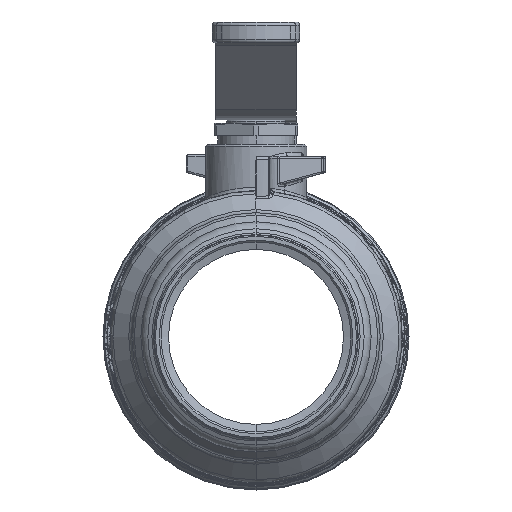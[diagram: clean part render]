
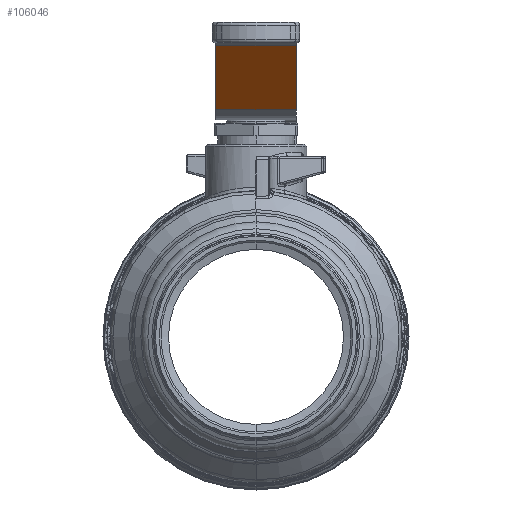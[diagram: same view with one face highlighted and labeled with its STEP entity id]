
A CAD part, left-side view. The second image highlights one B-rep face of the part: STEP entity #106046.
In plain terms, the highlighted planar face has unit normal (-0.707, 0, -0.707).
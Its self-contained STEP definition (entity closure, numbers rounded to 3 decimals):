
#104302 = PLANE('',#104303);
#104303 = AXIS2_PLACEMENT_3D('',#104304,#104305,#104306);
#104304 = CARTESIAN_POINT('',(0.,-34.173,78.276));
#104305 = DIRECTION('',(0.,-1.,0.));
#104306 = DIRECTION('',(1.,0.,0.));
#104501 = VERTEX_POINT('',#104502);
#104502 = CARTESIAN_POINT('',(-22.586,-34.173,
    77.205));
#104517 = CYLINDRICAL_SURFACE('',#104518,10.);
#104518 = AXIS2_PLACEMENT_3D('',#104519,#104520,#104521);
#104519 = CARTESIAN_POINT('',(-15.515,-34.173,
    84.276));
#104520 = DIRECTION('',(0.,-1.,0.));
#104521 = DIRECTION('',(1.,0.,0.));
#104529 = EDGE_CURVE('',#104530,#104501,#104532,.T.);
#104530 = VERTEX_POINT('',#104531);
#104531 = CARTESIAN_POINT('',(-40.899,-34.173,
    95.518));
#104532 = SURFACE_CURVE('',#104533,(#104537,#104544),.PCURVE_S1.);
#104533 = LINE('',#104534,#104535);
#104534 = CARTESIAN_POINT('',(-40.899,-34.173,
    95.518));
#104535 = VECTOR('',#104536,1.);
#104536 = DIRECTION('',(0.707,0.,-0.707));
#104537 = PCURVE('',#104302,#104538);
#104538 = DEFINITIONAL_REPRESENTATION('',(#104539),#104543);
#104539 = LINE('',#104540,#104541);
#104540 = CARTESIAN_POINT('',(-40.899,17.243));
#104541 = VECTOR('',#104542,1.);
#104542 = DIRECTION('',(0.707,-0.707));
#104543 = ( GEOMETRIC_REPRESENTATION_CONTEXT(2) 
PARAMETRIC_REPRESENTATION_CONTEXT() REPRESENTATION_CONTEXT('2D SPACE',''
  ) );
#104544 = PCURVE('',#104545,#104550);
#104545 = PLANE('',#104546);
#104546 = AXIS2_PLACEMENT_3D('',#104547,#104548,#104549);
#104547 = CARTESIAN_POINT('',(-40.899,-34.173,
    95.518));
#104548 = DIRECTION('',(-0.707,0.,
    -0.707));
#104549 = DIRECTION('',(0.707,0.,
    -0.707));
#104550 = DEFINITIONAL_REPRESENTATION('',(#104551),#104555);
#104551 = LINE('',#104552,#104553);
#104552 = CARTESIAN_POINT('',(0.,0.));
#104553 = VECTOR('',#104554,1.);
#104554 = DIRECTION('',(1.,0.));
#104555 = ( GEOMETRIC_REPRESENTATION_CONTEXT(2) 
PARAMETRIC_REPRESENTATION_CONTEXT() REPRESENTATION_CONTEXT('2D SPACE',''
  ) );
#104578 = CYLINDRICAL_SURFACE('',#104579,6.);
#104579 = AXIS2_PLACEMENT_3D('',#104580,#104581,#104582);
#104580 = CARTESIAN_POINT('',(-45.142,-34.173,
    91.276));
#104581 = DIRECTION('',(0.,-1.,0.));
#104582 = DIRECTION('',(1.,0.,0.));
#104743 = PLANE('',#104744);
#104744 = AXIS2_PLACEMENT_3D('',#104745,#104746,#104747);
#104745 = CARTESIAN_POINT('',(0.,-57.173,78.276));
#104746 = DIRECTION('',(0.,-1.,0.));
#104747 = DIRECTION('',(1.,0.,0.));
#105150 = VERTEX_POINT('',#105151);
#105151 = CARTESIAN_POINT('',(-40.899,-57.173,
    95.518));
#105177 = EDGE_CURVE('',#105150,#105178,#105180,.T.);
#105178 = VERTEX_POINT('',#105179);
#105179 = CARTESIAN_POINT('',(-22.586,-57.173,
    77.205));
#105180 = SURFACE_CURVE('',#105181,(#105185,#105192),.PCURVE_S1.);
#105181 = LINE('',#105182,#105183);
#105182 = CARTESIAN_POINT('',(-40.899,-57.173,
    95.518));
#105183 = VECTOR('',#105184,1.);
#105184 = DIRECTION('',(0.707,0.,-0.707));
#105185 = PCURVE('',#104743,#105186);
#105186 = DEFINITIONAL_REPRESENTATION('',(#105187),#105191);
#105187 = LINE('',#105188,#105189);
#105188 = CARTESIAN_POINT('',(-40.899,17.243));
#105189 = VECTOR('',#105190,1.);
#105190 = DIRECTION('',(0.707,-0.707));
#105191 = ( GEOMETRIC_REPRESENTATION_CONTEXT(2) 
PARAMETRIC_REPRESENTATION_CONTEXT() REPRESENTATION_CONTEXT('2D SPACE',''
  ) );
#105192 = PCURVE('',#104545,#105193);
#105193 = DEFINITIONAL_REPRESENTATION('',(#105194),#105198);
#105194 = LINE('',#105195,#105196);
#105195 = CARTESIAN_POINT('',(0.,23.));
#105196 = VECTOR('',#105197,1.);
#105197 = DIRECTION('',(1.,0.));
#105198 = ( GEOMETRIC_REPRESENTATION_CONTEXT(2) 
PARAMETRIC_REPRESENTATION_CONTEXT() REPRESENTATION_CONTEXT('2D SPACE',''
  ) );
#106025 = EDGE_CURVE('',#104501,#105178,#106026,.T.);
#106026 = SURFACE_CURVE('',#106027,(#106031,#106038),.PCURVE_S1.);
#106027 = LINE('',#106028,#106029);
#106028 = CARTESIAN_POINT('',(-22.586,-34.173,
    77.205));
#106029 = VECTOR('',#106030,1.);
#106030 = DIRECTION('',(0.,-1.,0.));
#106031 = PCURVE('',#104517,#106032);
#106032 = DEFINITIONAL_REPRESENTATION('',(#106033),#106037);
#106033 = LINE('',#106034,#106035);
#106034 = CARTESIAN_POINT('',(3.927,0.));
#106035 = VECTOR('',#106036,1.);
#106036 = DIRECTION('',(0.,1.));
#106037 = ( GEOMETRIC_REPRESENTATION_CONTEXT(2) 
PARAMETRIC_REPRESENTATION_CONTEXT() REPRESENTATION_CONTEXT('2D SPACE',''
  ) );
#106038 = PCURVE('',#104545,#106039);
#106039 = DEFINITIONAL_REPRESENTATION('',(#106040),#106044);
#106040 = LINE('',#106041,#106042);
#106041 = CARTESIAN_POINT('',(25.899,0.));
#106042 = VECTOR('',#106043,1.);
#106043 = DIRECTION('',(0.,1.));
#106044 = ( GEOMETRIC_REPRESENTATION_CONTEXT(2) 
PARAMETRIC_REPRESENTATION_CONTEXT() REPRESENTATION_CONTEXT('2D SPACE',''
  ) );
#106046 = ADVANCED_FACE('',(#106047),#104545,.T.);
#106047 = FACE_BOUND('',#106048,.T.);
#106048 = EDGE_LOOP('',(#106049,#106050,#106051,#106072));
#106049 = ORIENTED_EDGE('',*,*,#106025,.T.);
#106050 = ORIENTED_EDGE('',*,*,#105177,.F.);
#106051 = ORIENTED_EDGE('',*,*,#106052,.F.);
#106052 = EDGE_CURVE('',#104530,#105150,#106053,.T.);
#106053 = SURFACE_CURVE('',#106054,(#106058,#106065),.PCURVE_S1.);
#106054 = LINE('',#106055,#106056);
#106055 = CARTESIAN_POINT('',(-40.899,-34.173,
    95.518));
#106056 = VECTOR('',#106057,1.);
#106057 = DIRECTION('',(0.,-1.,0.));
#106058 = PCURVE('',#104545,#106059);
#106059 = DEFINITIONAL_REPRESENTATION('',(#106060),#106064);
#106060 = LINE('',#106061,#106062);
#106061 = CARTESIAN_POINT('',(0.,0.));
#106062 = VECTOR('',#106063,1.);
#106063 = DIRECTION('',(0.,1.));
#106064 = ( GEOMETRIC_REPRESENTATION_CONTEXT(2) 
PARAMETRIC_REPRESENTATION_CONTEXT() REPRESENTATION_CONTEXT('2D SPACE',''
  ) );
#106065 = PCURVE('',#104578,#106066);
#106066 = DEFINITIONAL_REPRESENTATION('',(#106067),#106071);
#106067 = LINE('',#106068,#106069);
#106068 = CARTESIAN_POINT('',(0.785,0.));
#106069 = VECTOR('',#106070,1.);
#106070 = DIRECTION('',(0.,1.));
#106071 = ( GEOMETRIC_REPRESENTATION_CONTEXT(2) 
PARAMETRIC_REPRESENTATION_CONTEXT() REPRESENTATION_CONTEXT('2D SPACE',''
  ) );
#106072 = ORIENTED_EDGE('',*,*,#104529,.T.);
